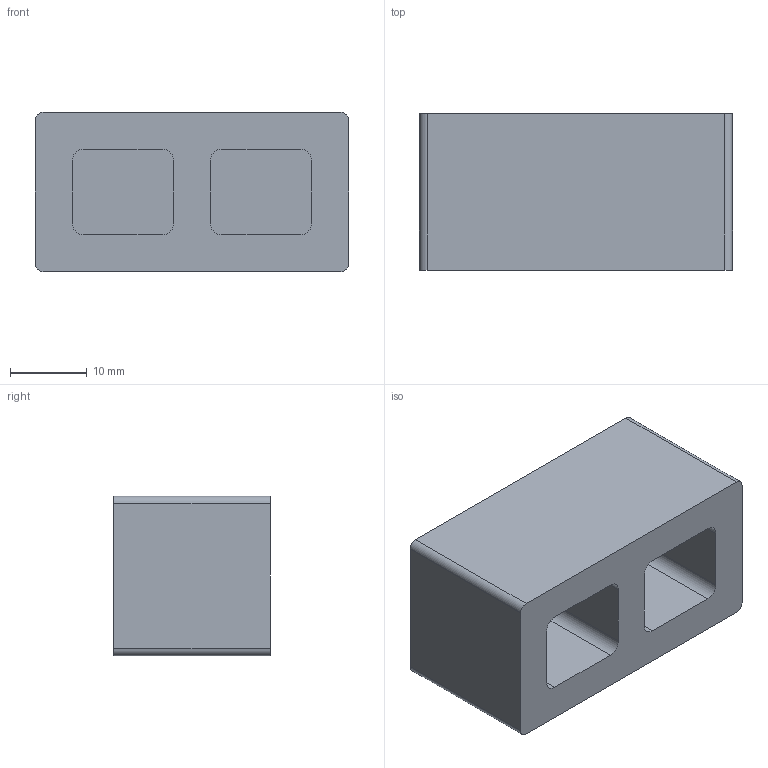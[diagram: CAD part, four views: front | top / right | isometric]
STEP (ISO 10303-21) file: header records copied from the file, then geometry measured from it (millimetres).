
FILE_DESCRIPTION(/* description */ (''),/* implementation_level */ '2;1');
FILE_NAME(/* name */ 'C:/Users/JQ/Downloads/Cinder Block Mould.step',/* time_stamp */ '2021-08-26T08:12:43-04:00',/* author */ (''),/* organization */ (''),/* preprocessor_version */ 'ST-DEVELOPER v18.1',/* originating_system */ 'Autodesk Translation Framework v10.10.0.1391',/* authorisation */ '');
FILE_SCHEMA (('AUTOMOTIVE_DESIGN { 1 0 10303 214 3 1 1 }'));
Length unit declared in the file: millimetre
Products named in the file (2): Cinder Block; Mould
Assembly tree (1 placements, depth 2):
  Cinder Block
    Mould
Bounding box: 40.8 x 20.4 x 20.8 mm (x, y, z)
Volume: 2162.1 mm3; surface area: 10311.3 mm2
Topology: 1 solids, 1 shells, 55 faces, 144 edges, 96 vertices
Faces by surface type: plane 31, cylinder 24
Entity records: 1773 total; most frequent: DIRECTION 308, CARTESIAN_POINT 298, ORIENTED_EDGE 288, EDGE_CURVE 144, AXIS2_PLACEMENT_3D 106, LINE 96, VECTOR 96, VERTEX_POINT 96
